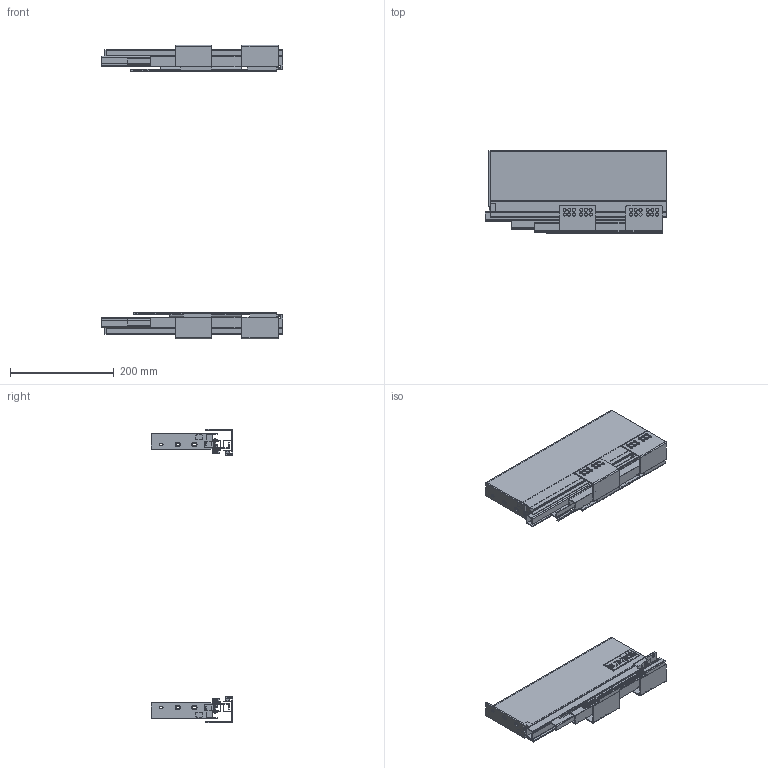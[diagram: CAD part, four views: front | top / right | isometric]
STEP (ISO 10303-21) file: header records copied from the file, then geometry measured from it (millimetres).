
FILE_DESCRIPTION(/* description */ (''),/* implementation_level */ '2;1');
FILE_NAME(/* name */ 'C:\Users\dmitruk\Documents\WORK\\X2\041D0410041F042004100412041B042F042E042904180415\X0\\SLIMBOX\SLIMBOX\SLIMBOX H128 L-350.stp',/* time_stamp */ '2022-04-19T17:19:50+03:00',/* author */ ('dmitruk'),/* organization */ ('AKS'),/* preprocessor_version */ 'ST-DEVELOPER v16.5',/* originating_system */ 'Autodesk Inventor 2017',/* authorisation */ '');
FILE_SCHEMA (('AUTOMOTIVE_DESIGN { 1 0 10303 214 3 1 1 }'));
Length unit declared in the file: millimetre
Products named in the file (12): SLIMBOX 90 мм правый; Боковина SLIMBOX _2; Направляющие \X2\0441043A
0440044B0442043E0433043E\X0\ монтажа \X2\043F
043E043B043D043E0433043E\X0\ \X2\0432044B04340432043804360435043D0438044F
\X0\ SLIMBOX-01; CR SLIMBOX-350; DR SLIMBOX; Крепление \X2\04440430
0441043004340430\X0\ SLIMBOX прав; CR SLIMBOX-500; DL SLIMBOX; Крепление \X2\04440430
0441043004340430\X0\ SLIMBOX лев; slim DW; Крепление к 
фасаду; Заглушка SLIMBOX
Assembly tree (14 placements, depth 3):
  SLIMBOX 90 мм правый
    Боковина SLIMBOX _2
    Направляющие \X2\0441043A
0440044B0442043E0433043E\X0\ монтажа \X2\043F
043E043B043D043E0433043E\X0\ \X2\0432044B04340432043804360435043D0438044F
\X0\ SLIMBOX-01
      CR SLIMBOX-350
      DR SLIMBOX
      slim DW  x2
      Крепление \X2\04440430
0441043004340430\X0\ SLIMBOX прав
      CR SLIMBOX-500
      DL SLIMBOX
      Крепление \X2\04440430
0441043004340430\X0\ SLIMBOX лев
    Крепление к 
фасаду  x2
    Заглушка SLIMBOX  x2
Bounding box: 350 x 157.5 x 564 mm (x, y, z)
Volume: 473250.7 mm3; surface area: 683184.9 mm2
Topology: 30 solids, 30 shells, 1323 faces, 3635 edges, 2427 vertices
Faces by surface type: plane 957, cylinder 350, cone 16
Full cylindrical faces by diameter (mm): 3 x2, 3.8 x4, 4 x4, 4.8 x4, 6 x48, 7.603 x4, 7.801 x2, 8.085 x2, 10.37 x2, 11 x4, 12.231 x2
Entity records: 34912 total; most frequent: CARTESIAN_POINT 5955, ORIENTED_EDGE 5758, DIRECTION 5659, EDGE_CURVE 2879, LINE 2337, VECTOR 2337, VERTEX_POINT 1957, AXIS2_PLACEMENT_3D 1661
